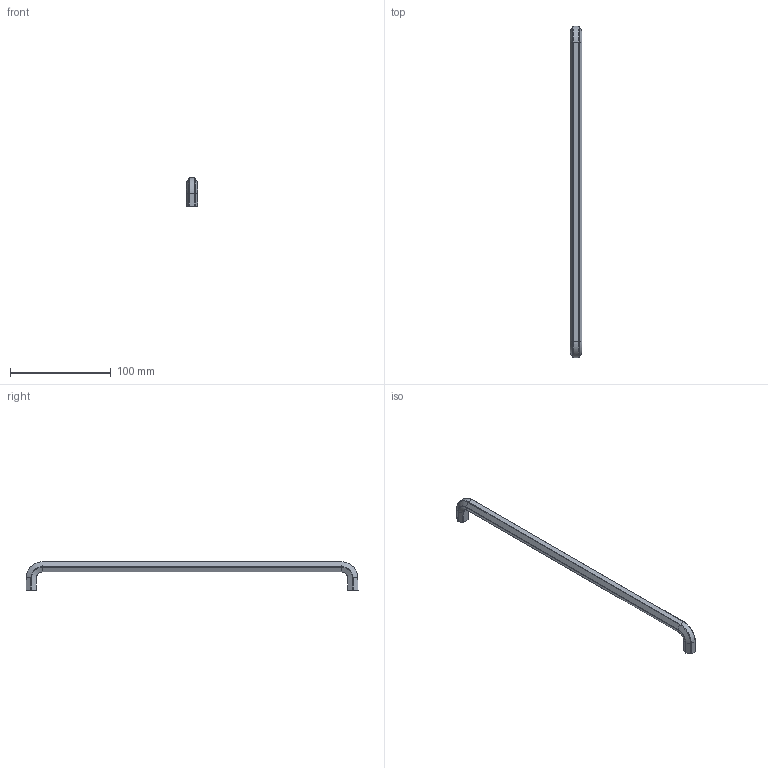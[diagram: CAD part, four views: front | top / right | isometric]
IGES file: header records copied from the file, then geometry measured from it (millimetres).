
Start section: C
Global section: file name: 8273-330 - EXP.igs; native system: By Siemens PLM Incorporated; preprocessor: XPlus GENERIC/IGES 16.0.42; author: Author; organization: Title; date: 20220504.152543; units: millimetre
Bounding box: 11.5 x 330.07 x 28 mm (x, y, z)
Surface area: 26876.6 mm2 (no closed solid volume)
Topology: 0 solids, 0 shells, 124 faces, 616 edges, 616 vertices
Faces by surface type: bspline 124
